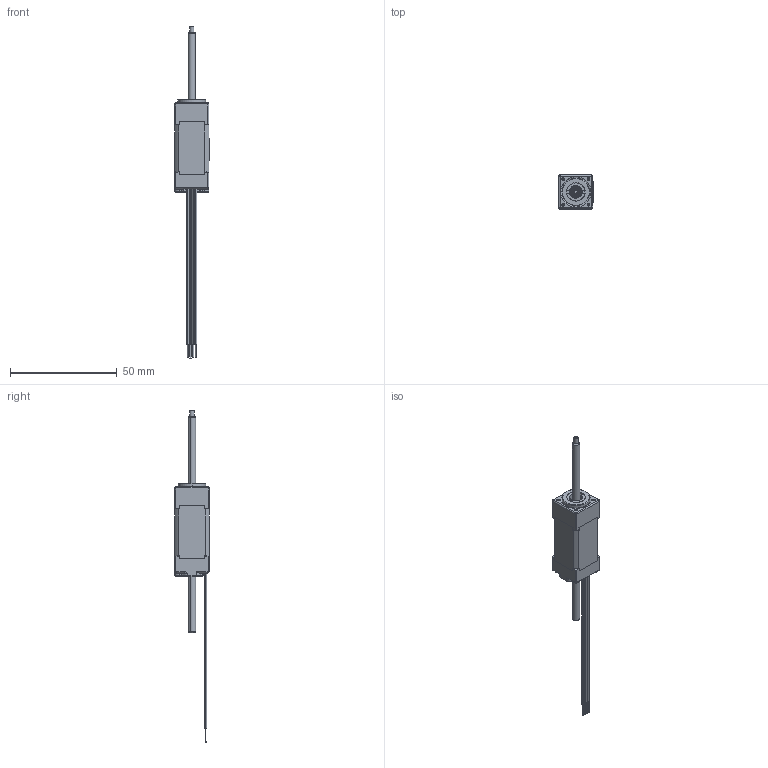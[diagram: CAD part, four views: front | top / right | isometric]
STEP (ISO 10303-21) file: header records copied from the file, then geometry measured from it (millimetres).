
FILE_DESCRIPTION (( 'STEP AP203' ), '1' );
FILE_NAME ('DS-NON-CAPTIVE.STEP', '2025-08-27T08:14:14', ( '' ), ( '' ), 'SwSTEP 2.0', 'SolidWorks 2022', '' );
FILE_SCHEMA (( 'CONFIG_CONTROL_DESIGN' ));
Length unit declared in the file: millimetre
Products named in the file (1): DS-NON-CAPTIVE
Bounding box: 16.15 x 16 x 155.87 mm (x, y, z)
Surface area: 5931.3 mm2 (no closed solid volume)
Topology: 0 solids, 21 shells, 329 faces, 972 edges, 653 vertices
Faces by surface type: cylinder 136, plane 129, torus 32, bspline 18, cone 12, sphere 2
Entity records: 12765 total; most frequent: CARTESIAN_POINT 4102, DIRECTION 1811, ORIENTED_EDGE 1627, EDGE_CURVE 964, VERTEX_POINT 653, AXIS2_PLACEMENT_3D 650, VECTOR 511, LINE 511
